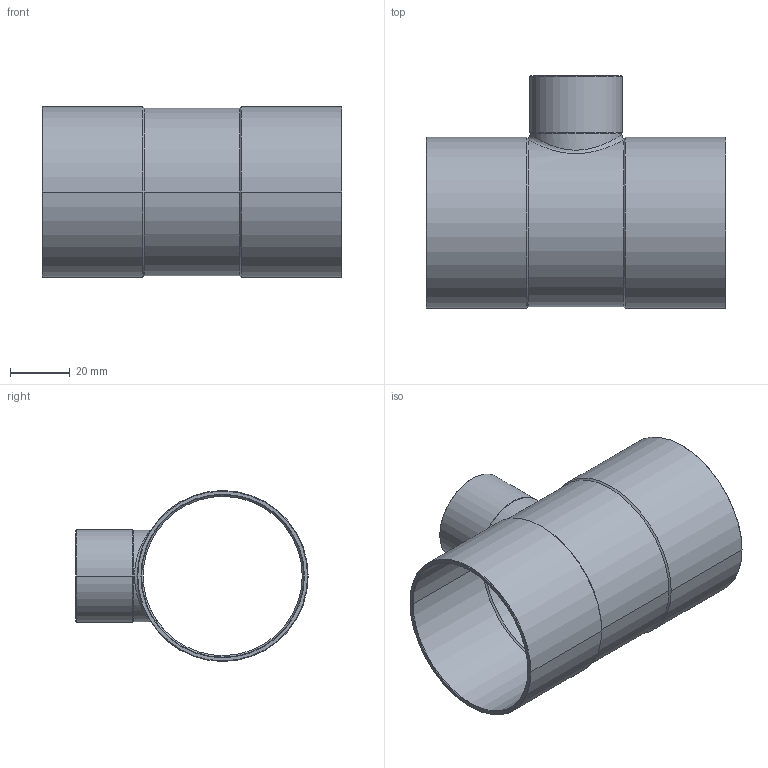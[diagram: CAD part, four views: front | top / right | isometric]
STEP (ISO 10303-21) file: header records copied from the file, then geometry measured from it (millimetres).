
FILE_DESCRIPTION((''),'2;1');
FILE_NAME('G:\Technics\CAD\Bauteile\15130\15130542854.stp','2005-11-02T10:19:55',('boden'),(''),'Autodesk Inventor 8','Autodesk Inventor 8','');
FILE_SCHEMA(('AUTOMOTIVE_DESIGN { 1 0 10303 214 1 1 1 1 }'));
Length unit declared in the file: millimetre
Products named in the file (1): 15130542854
Bounding box: 100 x 77.53 x 57.05 mm (x, y, z)
Volume: 27276 mm3; surface area: 38326.4 mm2
Topology: 1 solids, 1 shells, 49 faces, 112 edges, 64 vertices
Faces by surface type: cone 24, cylinder 20, plane 3, bspline 2
Entity records: 1808 total; most frequent: CARTESIAN_POINT 687, DIRECTION 238, ORIENTED_EDGE 224, EDGE_CURVE 112, AXIS2_PLACEMENT_3D 98, VERTEX_POINT 64, EDGE_LOOP 52, CIRCLE 50
